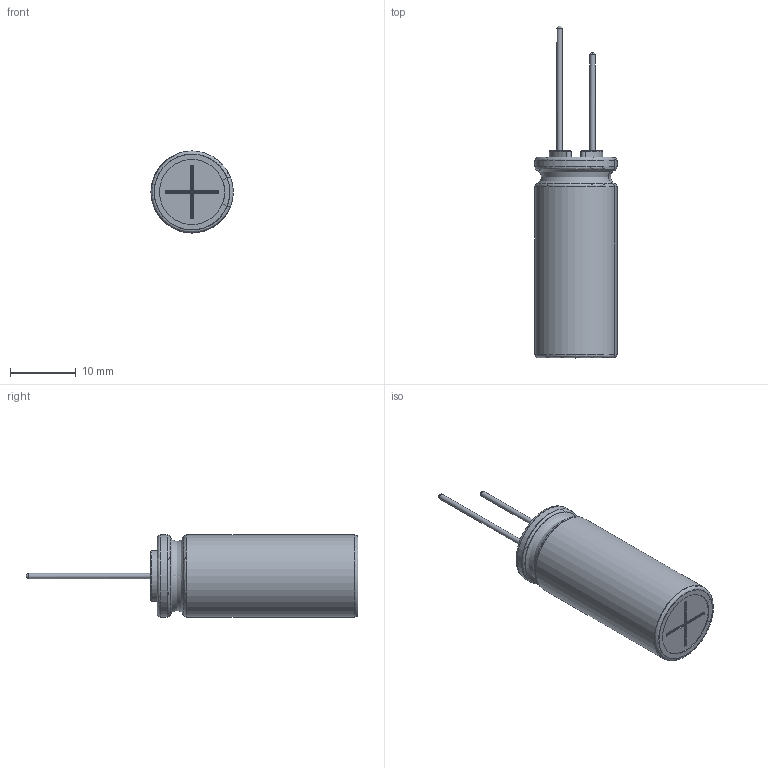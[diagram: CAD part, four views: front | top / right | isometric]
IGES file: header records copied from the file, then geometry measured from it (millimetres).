
Start section: JAMA-IS VERSION  1.0
Bounding box: 12.48 x 50.5 x 12.5 mm (x, y, z)
Surface area: 4131.6 mm2 (no closed solid volume)
Topology: 0 solids, 0 shells, 132 faces, 1445 edges, 1424 vertices
Faces by surface type: bspline 132
